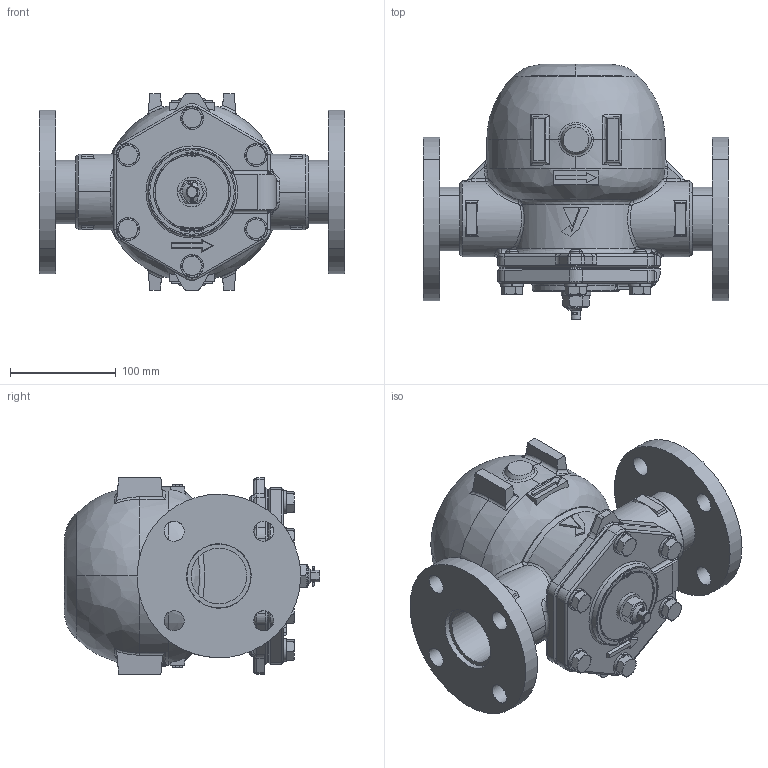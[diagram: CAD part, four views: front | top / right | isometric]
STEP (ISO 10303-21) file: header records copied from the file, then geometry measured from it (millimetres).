
FILE_DESCRIPTION( (''), '2;1');
FILE_NAME ('PC1027.12188.TSF-11SF JIS10KFF 50A_30697.stp','2025-07-31T10:29:15',(''),(''),'spGate 20.6.3 (****-****-****-****)','','');
FILE_SCHEMA (('AUTOMOTIVE_DESIGN'));
Length unit declared in the file: millimetre
Products named in the file (13): Assembly; CP_SUS_Q_Q''_SUS304TP 50AxSch40x280_5126; SOP 10K 50A; _{__50A ____; 3D_@TSF-10_@_____s__; 3D_@TSF-10_@_Z_p_i_b_g; 3D_@TSF-10_@_J___[; 3D_@TSF-11_@________; ____; _R_b_N____; CP_''_JIS B 1180 _____a_Z_p_{___g''_17168; SSLW12; ________
Assembly tree (23 placements, depth 2):
  Assembly
    CP_SUS_Q_Q''_SUS304TP 50AxSch40x280_5126
    SOP 10K 50A  x2
    _{__50A ____
    3D_@TSF-10_@_____s__
    3D_@TSF-10_@_Z_p_i_b_g
    3D_@TSF-10_@_J___[
    3D_@TSF-11_@________
    ____
    _R_b_N____
    CP_''_JIS B 1180 _____a_Z_p_{___g''_17168  x6
    SSLW12  x6
    ________
Bounding box: 290 x 242 x 186 mm (x, y, z)
Volume: 4524956.8 mm3; surface area: 449568 mm2
Topology: 23 solids, 23 shells, 949 faces, 3164 edges, 2276 vertices
Faces by surface type: plane 412, bspline 302, cylinder 235
Entity records: 58658 total; most frequent: CARTESIAN_POINT 21859, ORIENTED_EDGE 5024, COLOUR_RGB 3309, PRESENTATION_STYLE_ASSIGNMENT 3309, STYLED_ITEM 3309, EDGE_CURVE 2512, DRAUGHTING_PRE_DEFINED_CURVE_FONT 2512, CURVE_STYLE 2512
